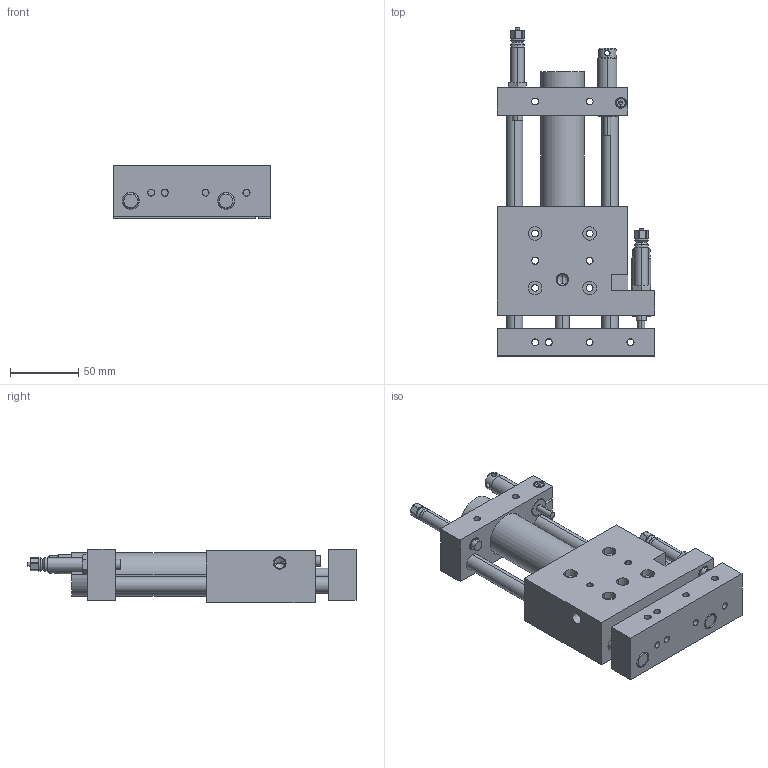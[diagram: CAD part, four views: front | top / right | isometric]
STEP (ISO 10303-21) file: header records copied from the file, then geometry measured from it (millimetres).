
FILE_DESCRIPTION (( 'STEP AP214' ), '1' );
FILE_NAME ('meto-fer_ml26-075.STEP', '2004-12-31T14:25:52', ( ' ' ), ( ' ' ), 'SwSTEP 2.0', 'SolidWorks 2003240', '' );
FILE_SCHEMA (( 'AUTOMOTIVE_DESIGN' ));
Length unit declared in the file: millimetre
Products named in the file (9): meto-fer_ml26-075_shaft; meto-fer_ml26-075_tf; meto-fer_ml26-075_sd; meto-fer_ml26_pp; meto-fer_mu-01-004; meto-fer_as-10-50; Socket Head Cap Screw_DIN_DIN 912 M4 x 12 --- 12N; meto-fer_kb-08; meto-fer_ml26-075
Assembly tree (13 placements, depth 2):
  meto-fer_ml26-075
    meto-fer_ml26-075_shaft  x2
    meto-fer_ml26-075_sd
    meto-fer_kb-08  x2
    Socket Head Cap Screw_DIN_DIN 912 M4 x 12 --- 12N  x2
    meto-fer_as-10-50  x2
    meto-fer_ml26_pp
    meto-fer_ml26-075_tf
    meto-fer_mu-01-004  x2
Bounding box: 116 x 241 x 39 mm (x, y, z)
Volume: 551244.8 mm3; surface area: 117640.9 mm2
Topology: 13 solids, 13 shells, 462 faces, 1087 edges, 652 vertices
Faces by surface type: cylinder 176, cone 142, plane 136, torus 8
Entity records: 11296 total; most frequent: CARTESIAN_POINT 2155, DIRECTION 1805, ORIENTED_EDGE 1610, EDGE_CURVE 805, AXIS2_PLACEMENT_3D 719, VERTEX_POINT 493, EDGE_LOOP 428, LINE 367
